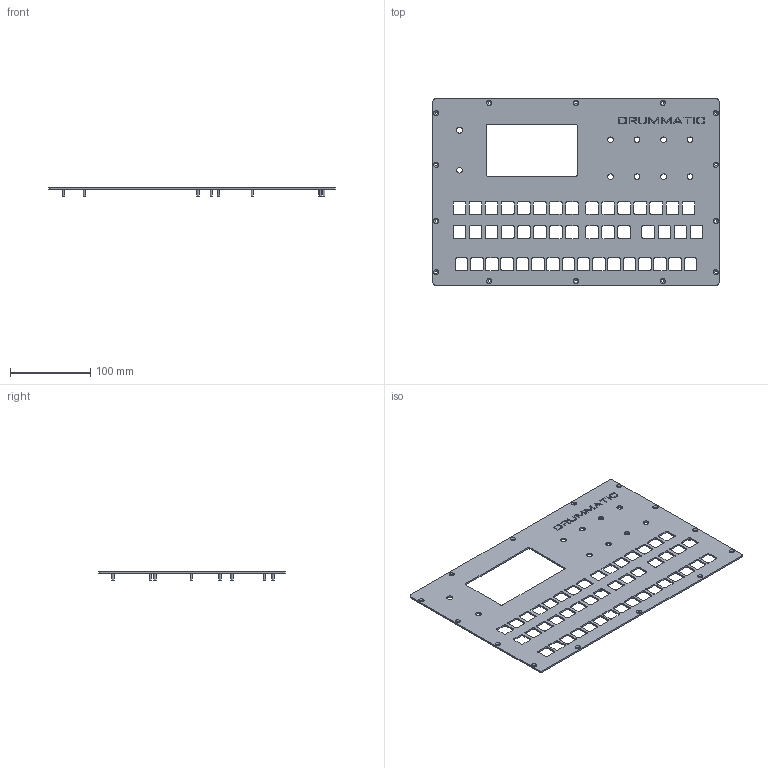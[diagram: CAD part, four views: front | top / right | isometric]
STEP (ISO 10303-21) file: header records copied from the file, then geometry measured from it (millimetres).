
FILE_DESCRIPTION(('Open CASCADE Model'),'2;1');
FILE_NAME('Open CASCADE Shape Model','2026-10-20T19:36:06',('Author'),( 'Open CASCADE'),'Open CASCADE STEP processor 7.9','Open CASCADE 7.9' ,'Unknown');
FILE_SCHEMA(('AUTOMOTIVE_DESIGN { 1 0 10303 214 1 1 1 1 }'));
Length unit declared in the file: millimetre
Products named in the file (1): Open CASCADE STEP translator 7.9 1
Bounding box: 356 x 231.95 x 10 mm (x, y, z)
Volume: 127135.5 mm3; surface area: 137092.7 mm2
Topology: 1 solids, 1 shells, 722 faces, 2068 edges, 1374 vertices
Faces by surface type: plane 478, cylinder 230, cone 14
Full cylindrical faces by diameter (mm): 3 x14, 3.4 x14, 7 x9, 7.5 x1
Entity records: 51090 total; most frequent: CARTESIAN_POINT 9057, DIRECTION 7998, LINE 5270, VECTOR 5270, ORIENTED_EDGE 4136, PCURVE 4136, DEFINITIONAL_REPRESENTATION 4136, EDGE_CURVE 2068
